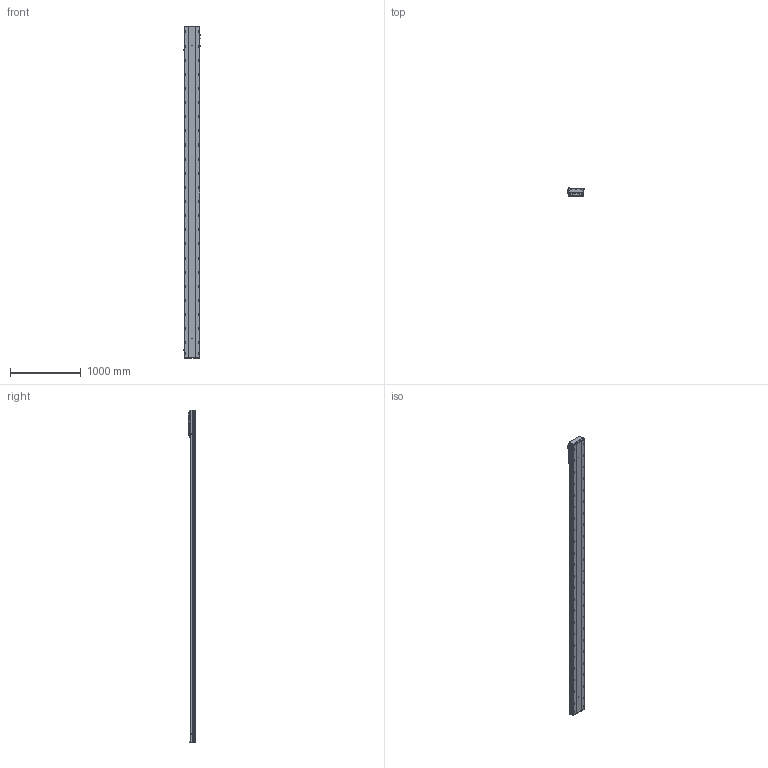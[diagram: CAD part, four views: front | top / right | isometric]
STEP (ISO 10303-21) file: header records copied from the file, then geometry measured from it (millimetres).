
FILE_DESCRIPTION (( 'STEP AP203' ), '1' );
FILE_NAME ('BEH22-A-M2-4250-L1-¦Õ22-PCD100-M6-C3.STEP', '2022-06-21T06:29:01', ( 'CXY' ), ( 'BT' ), 'SwSTEP 2.0', 'SolidWorks 2016', '' );
FILE_SCHEMA (( 'CONFIG_CONTROL_DESIGN' ));
Products named in the file (12): FS-25-6.66-M2-H22K6; BEH22-A-M2-4250-L1-耳22-PCD100-M6-C3; FS-02-BTH22; BEH22-04-F; BEH22-07-PCD100-80-M6; PM-T65; _G-M6; FS-01-10（10毫米）; BTH22-07-DZ; BEH22-04-01_L; BEH22-B-01-XX-2; 萇儂階踡輸
Assembly tree (18 placements, depth 3):
  BEH22-A-M2-4250-L1-耳22-PCD100-M6-C3
    BEH22-B-01-XX-2
    BTH22-07-DZ  x2
    PM-T65  x2
    BEH22-04-01_L
      BEH22-04-F
      萇儂階踡輸
      _G-M6  x3
      FS-02-BTH22
      FS-01-10（10毫米）  x4
      BEH22-07-PCD100-80-M6
      FS-25-6.66-M2-H22K6
Bounding box: 247.7 x 111 x 4698 mm (x, y, z)
Volume: 48123005.7 mm3; surface area: 4650845.6 mm2
Topology: 21 solids, 21 shells, 2760 faces, 8260 edges, 5386 vertices
Faces by surface type: cylinder 1488, plane 980, cone 233, bspline 37, torus 22
Entity records: 485020 total; most frequent: CARTESIAN_POINT 421183, ORIENTED_EDGE 14340, DIRECTION 11774, EDGE_CURVE 7170, VERTEX_POINT 4746, AXIS2_PLACEMENT_3D 4284, VECTOR 3206, LINE 3206
